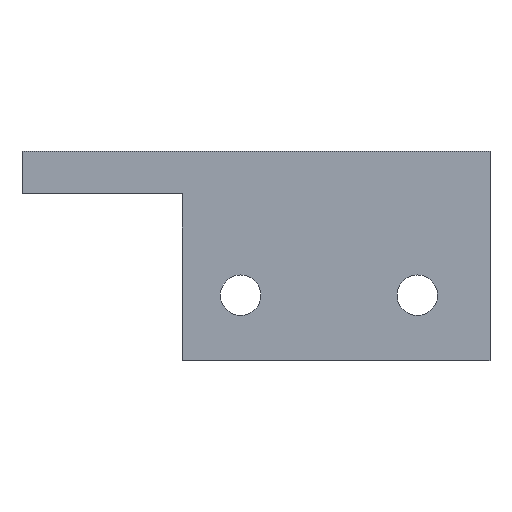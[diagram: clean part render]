
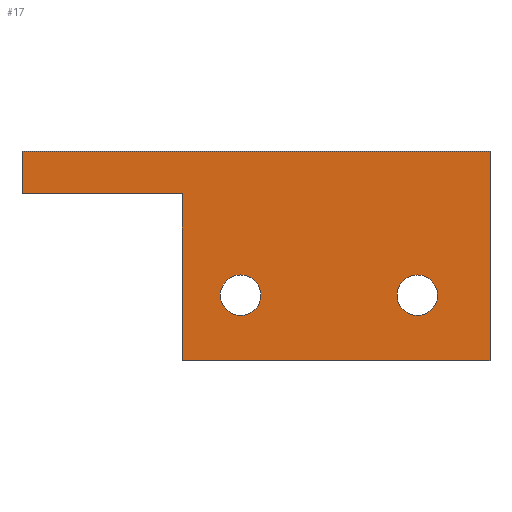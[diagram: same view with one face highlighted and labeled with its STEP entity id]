
A CAD part, left-side view. The second image highlights one B-rep face of the part: STEP entity #17.
In plain terms, the highlighted planar face has unit normal (-1, 0, 0).
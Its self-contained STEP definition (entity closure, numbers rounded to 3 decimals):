
#17 = ADVANCED_FACE('',(#18,#193,#228),#32,.F.);
#18 = FACE_BOUND('',#19,.F.);
#19 = EDGE_LOOP('',(#20,#55,#83,#111,#139,#167));
#20 = ORIENTED_EDGE('',*,*,#21,.F.);
#21 = EDGE_CURVE('',#22,#24,#26,.T.);
#22 = VERTEX_POINT('',#23);
#23 = CARTESIAN_POINT('',(-15.,-20.,-25.));
#24 = VERTEX_POINT('',#25);
#25 = CARTESIAN_POINT('',(-15.,51.5,-25.));
#26 = SURFACE_CURVE('',#27,(#31,#43),.PCURVE_S1.);
#27 = LINE('',#28,#29);
#28 = CARTESIAN_POINT('',(-15.,-20.,-25.));
#29 = VECTOR('',#30,1.);
#30 = DIRECTION('',(0.,1.,0.));
#31 = PCURVE('',#32,#37);
#32 = PLANE('',#33);
#33 = AXIS2_PLACEMENT_3D('',#34,#35,#36);
#34 = CARTESIAN_POINT('',(-15.,-20.,-57.));
#35 = DIRECTION('',(1.,0.,0.));
#36 = DIRECTION('',(0.,0.,1.));
#37 = DEFINITIONAL_REPRESENTATION('',(#38),#42);
#38 = LINE('',#39,#40);
#39 = CARTESIAN_POINT('',(32.,0.));
#40 = VECTOR('',#41,1.);
#41 = DIRECTION('',(0.,-1.));
#42 = ( GEOMETRIC_REPRESENTATION_CONTEXT(2) 
PARAMETRIC_REPRESENTATION_CONTEXT() REPRESENTATION_CONTEXT('2D SPACE',''
  ) );
#43 = PCURVE('',#44,#49);
#44 = PLANE('',#45);
#45 = AXIS2_PLACEMENT_3D('',#46,#47,#48);
#46 = CARTESIAN_POINT('',(-15.,-20.,-25.));
#47 = DIRECTION('',(0.,0.,1.));
#48 = DIRECTION('',(1.,0.,0.));
#49 = DEFINITIONAL_REPRESENTATION('',(#50),#54);
#50 = LINE('',#51,#52);
#51 = CARTESIAN_POINT('',(0.,0.));
#52 = VECTOR('',#53,1.);
#53 = DIRECTION('',(0.,1.));
#54 = ( GEOMETRIC_REPRESENTATION_CONTEXT(2) 
PARAMETRIC_REPRESENTATION_CONTEXT() REPRESENTATION_CONTEXT('2D SPACE',''
  ) );
#55 = ORIENTED_EDGE('',*,*,#56,.F.);
#56 = EDGE_CURVE('',#57,#22,#59,.T.);
#57 = VERTEX_POINT('',#58);
#58 = CARTESIAN_POINT('',(-15.,-20.,-57.));
#59 = SURFACE_CURVE('',#60,(#64,#71),.PCURVE_S1.);
#60 = LINE('',#61,#62);
#61 = CARTESIAN_POINT('',(-15.,-20.,-57.));
#62 = VECTOR('',#63,1.);
#63 = DIRECTION('',(0.,0.,1.));
#64 = PCURVE('',#32,#65);
#65 = DEFINITIONAL_REPRESENTATION('',(#66),#70);
#66 = LINE('',#67,#68);
#67 = CARTESIAN_POINT('',(0.,0.));
#68 = VECTOR('',#69,1.);
#69 = DIRECTION('',(1.,0.));
#70 = ( GEOMETRIC_REPRESENTATION_CONTEXT(2) 
PARAMETRIC_REPRESENTATION_CONTEXT() REPRESENTATION_CONTEXT('2D SPACE',''
  ) );
#71 = PCURVE('',#72,#77);
#72 = PLANE('',#73);
#73 = AXIS2_PLACEMENT_3D('',#74,#75,#76);
#74 = CARTESIAN_POINT('',(-15.,-20.,-57.));
#75 = DIRECTION('',(0.,1.,0.));
#76 = DIRECTION('',(0.,0.,1.));
#77 = DEFINITIONAL_REPRESENTATION('',(#78),#82);
#78 = LINE('',#79,#80);
#79 = CARTESIAN_POINT('',(0.,0.));
#80 = VECTOR('',#81,1.);
#81 = DIRECTION('',(1.,0.));
#82 = ( GEOMETRIC_REPRESENTATION_CONTEXT(2) 
PARAMETRIC_REPRESENTATION_CONTEXT() REPRESENTATION_CONTEXT('2D SPACE',''
  ) );
#83 = ORIENTED_EDGE('',*,*,#84,.T.);
#84 = EDGE_CURVE('',#57,#85,#87,.T.);
#85 = VERTEX_POINT('',#86);
#86 = CARTESIAN_POINT('',(-15.,27.,-57.));
#87 = SURFACE_CURVE('',#88,(#92,#99),.PCURVE_S1.);
#88 = LINE('',#89,#90);
#89 = CARTESIAN_POINT('',(-15.,-20.,-57.));
#90 = VECTOR('',#91,1.);
#91 = DIRECTION('',(0.,1.,0.));
#92 = PCURVE('',#32,#93);
#93 = DEFINITIONAL_REPRESENTATION('',(#94),#98);
#94 = LINE('',#95,#96);
#95 = CARTESIAN_POINT('',(0.,0.));
#96 = VECTOR('',#97,1.);
#97 = DIRECTION('',(0.,-1.));
#98 = ( GEOMETRIC_REPRESENTATION_CONTEXT(2) 
PARAMETRIC_REPRESENTATION_CONTEXT() REPRESENTATION_CONTEXT('2D SPACE',''
  ) );
#99 = PCURVE('',#100,#105);
#100 = PLANE('',#101);
#101 = AXIS2_PLACEMENT_3D('',#102,#103,#104);
#102 = CARTESIAN_POINT('',(-15.,-20.,-57.));
#103 = DIRECTION('',(0.,0.,1.));
#104 = DIRECTION('',(1.,0.,0.));
#105 = DEFINITIONAL_REPRESENTATION('',(#106),#110);
#106 = LINE('',#107,#108);
#107 = CARTESIAN_POINT('',(0.,0.));
#108 = VECTOR('',#109,1.);
#109 = DIRECTION('',(0.,1.));
#110 = ( GEOMETRIC_REPRESENTATION_CONTEXT(2) 
PARAMETRIC_REPRESENTATION_CONTEXT() REPRESENTATION_CONTEXT('2D SPACE',''
  ) );
#111 = ORIENTED_EDGE('',*,*,#112,.T.);
#112 = EDGE_CURVE('',#85,#113,#115,.T.);
#113 = VERTEX_POINT('',#114);
#114 = CARTESIAN_POINT('',(-15.,27.,-31.5));
#115 = SURFACE_CURVE('',#116,(#120,#127),.PCURVE_S1.);
#116 = LINE('',#117,#118);
#117 = CARTESIAN_POINT('',(-15.,27.,-57.));
#118 = VECTOR('',#119,1.);
#119 = DIRECTION('',(0.,0.,1.));
#120 = PCURVE('',#32,#121);
#121 = DEFINITIONAL_REPRESENTATION('',(#122),#126);
#122 = LINE('',#123,#124);
#123 = CARTESIAN_POINT('',(0.,-47.));
#124 = VECTOR('',#125,1.);
#125 = DIRECTION('',(1.,0.));
#126 = ( GEOMETRIC_REPRESENTATION_CONTEXT(2) 
PARAMETRIC_REPRESENTATION_CONTEXT() REPRESENTATION_CONTEXT('2D SPACE',''
  ) );
#127 = PCURVE('',#128,#133);
#128 = PLANE('',#129);
#129 = AXIS2_PLACEMENT_3D('',#130,#131,#132);
#130 = CARTESIAN_POINT('',(-15.,27.,-57.));
#131 = DIRECTION('',(0.,1.,0.));
#132 = DIRECTION('',(0.,0.,1.));
#133 = DEFINITIONAL_REPRESENTATION('',(#134),#138);
#134 = LINE('',#135,#136);
#135 = CARTESIAN_POINT('',(0.,0.));
#136 = VECTOR('',#137,1.);
#137 = DIRECTION('',(1.,0.));
#138 = ( GEOMETRIC_REPRESENTATION_CONTEXT(2) 
PARAMETRIC_REPRESENTATION_CONTEXT() REPRESENTATION_CONTEXT('2D SPACE',''
  ) );
#139 = ORIENTED_EDGE('',*,*,#140,.T.);
#140 = EDGE_CURVE('',#113,#141,#143,.T.);
#141 = VERTEX_POINT('',#142);
#142 = CARTESIAN_POINT('',(-15.,51.5,-31.5));
#143 = SURFACE_CURVE('',#144,(#148,#155),.PCURVE_S1.);
#144 = LINE('',#145,#146);
#145 = CARTESIAN_POINT('',(-15.,4.,-31.5));
#146 = VECTOR('',#147,1.);
#147 = DIRECTION('',(0.,1.,0.));
#148 = PCURVE('',#32,#149);
#149 = DEFINITIONAL_REPRESENTATION('',(#150),#154);
#150 = LINE('',#151,#152);
#151 = CARTESIAN_POINT('',(25.5,-24.));
#152 = VECTOR('',#153,1.);
#153 = DIRECTION('',(0.,-1.));
#154 = ( GEOMETRIC_REPRESENTATION_CONTEXT(2) 
PARAMETRIC_REPRESENTATION_CONTEXT() REPRESENTATION_CONTEXT('2D SPACE',''
  ) );
#155 = PCURVE('',#156,#161);
#156 = PLANE('',#157);
#157 = AXIS2_PLACEMENT_3D('',#158,#159,#160);
#158 = CARTESIAN_POINT('',(-15.,4.,-31.5));
#159 = DIRECTION('',(0.,0.,1.));
#160 = DIRECTION('',(1.,0.,0.));
#161 = DEFINITIONAL_REPRESENTATION('',(#162),#166);
#162 = LINE('',#163,#164);
#163 = CARTESIAN_POINT('',(0.,0.));
#164 = VECTOR('',#165,1.);
#165 = DIRECTION('',(0.,1.));
#166 = ( GEOMETRIC_REPRESENTATION_CONTEXT(2) 
PARAMETRIC_REPRESENTATION_CONTEXT() REPRESENTATION_CONTEXT('2D SPACE',''
  ) );
#167 = ORIENTED_EDGE('',*,*,#168,.T.);
#168 = EDGE_CURVE('',#141,#24,#169,.T.);
#169 = SURFACE_CURVE('',#170,(#174,#181),.PCURVE_S1.);
#170 = LINE('',#171,#172);
#171 = CARTESIAN_POINT('',(-15.,51.5,-31.5));
#172 = VECTOR('',#173,1.);
#173 = DIRECTION('',(0.,0.,1.));
#174 = PCURVE('',#32,#175);
#175 = DEFINITIONAL_REPRESENTATION('',(#176),#180);
#176 = LINE('',#177,#178);
#177 = CARTESIAN_POINT('',(25.5,-71.5));
#178 = VECTOR('',#179,1.);
#179 = DIRECTION('',(1.,0.));
#180 = ( GEOMETRIC_REPRESENTATION_CONTEXT(2) 
PARAMETRIC_REPRESENTATION_CONTEXT() REPRESENTATION_CONTEXT('2D SPACE',''
  ) );
#181 = PCURVE('',#182,#187);
#182 = PLANE('',#183);
#183 = AXIS2_PLACEMENT_3D('',#184,#185,#186);
#184 = CARTESIAN_POINT('',(-15.,51.5,-31.5));
#185 = DIRECTION('',(0.,1.,0.));
#186 = DIRECTION('',(0.,0.,1.));
#187 = DEFINITIONAL_REPRESENTATION('',(#188),#192);
#188 = LINE('',#189,#190);
#189 = CARTESIAN_POINT('',(0.,0.));
#190 = VECTOR('',#191,1.);
#191 = DIRECTION('',(1.,0.));
#192 = ( GEOMETRIC_REPRESENTATION_CONTEXT(2) 
PARAMETRIC_REPRESENTATION_CONTEXT() REPRESENTATION_CONTEXT('2D SPACE',''
  ) );
#193 = FACE_BOUND('',#194,.F.);
#194 = EDGE_LOOP('',(#195));
#195 = ORIENTED_EDGE('',*,*,#196,.T.);
#196 = EDGE_CURVE('',#197,#197,#199,.T.);
#197 = VERTEX_POINT('',#198);
#198 = CARTESIAN_POINT('',(-15.,15.,-47.));
#199 = SURFACE_CURVE('',#200,(#205,#216),.PCURVE_S1.);
#200 = CIRCLE('',#201,3.1);
#201 = AXIS2_PLACEMENT_3D('',#202,#203,#204);
#202 = CARTESIAN_POINT('',(-15.,18.1,-47.));
#203 = DIRECTION('',(-1.,-0.,0.));
#204 = DIRECTION('',(0.,-1.,0.));
#205 = PCURVE('',#32,#206);
#206 = DEFINITIONAL_REPRESENTATION('',(#207),#215);
#207 = ( BOUNDED_CURVE() B_SPLINE_CURVE(2,(#208,#209,#210,#211,#212,#213
,#214),.UNSPECIFIED.,.T.,.F.) B_SPLINE_CURVE_WITH_KNOTS((1,2,2,2,2,1),(
    -2.094,0.,2.094,4.189,6.283,
8.378),.UNSPECIFIED.) CURVE() GEOMETRIC_REPRESENTATION_ITEM() 
RATIONAL_B_SPLINE_CURVE((1.,0.5,1.,0.5,1.,0.5,1.)) REPRESENTATION_ITEM(
  '') );
#208 = CARTESIAN_POINT('',(10.,-35.));
#209 = CARTESIAN_POINT('',(15.369,-35.));
#210 = CARTESIAN_POINT('',(12.685,-39.65));
#211 = CARTESIAN_POINT('',(10.,-44.3));
#212 = CARTESIAN_POINT('',(7.315,-39.65));
#213 = CARTESIAN_POINT('',(4.631,-35.));
#214 = CARTESIAN_POINT('',(10.,-35.));
#215 = ( GEOMETRIC_REPRESENTATION_CONTEXT(2) 
PARAMETRIC_REPRESENTATION_CONTEXT() REPRESENTATION_CONTEXT('2D SPACE',''
  ) );
#216 = PCURVE('',#217,#222);
#217 = CYLINDRICAL_SURFACE('',#218,3.1);
#218 = AXIS2_PLACEMENT_3D('',#219,#220,#221);
#219 = CARTESIAN_POINT('',(-16.,18.1,-47.));
#220 = DIRECTION('',(-1.,-0.,-0.));
#221 = DIRECTION('',(0.,-1.,0.));
#222 = DEFINITIONAL_REPRESENTATION('',(#223),#227);
#223 = LINE('',#224,#225);
#224 = CARTESIAN_POINT('',(-6.283,-1.));
#225 = VECTOR('',#226,1.);
#226 = DIRECTION('',(1.,-0.));
#227 = ( GEOMETRIC_REPRESENTATION_CONTEXT(2) 
PARAMETRIC_REPRESENTATION_CONTEXT() REPRESENTATION_CONTEXT('2D SPACE',''
  ) );
#228 = FACE_BOUND('',#229,.F.);
#229 = EDGE_LOOP('',(#230));
#230 = ORIENTED_EDGE('',*,*,#231,.T.);
#231 = EDGE_CURVE('',#232,#232,#234,.T.);
#232 = VERTEX_POINT('',#233);
#233 = CARTESIAN_POINT('',(-15.,-12.,-47.));
#234 = SURFACE_CURVE('',#235,(#240,#251),.PCURVE_S1.);
#235 = CIRCLE('',#236,3.1);
#236 = AXIS2_PLACEMENT_3D('',#237,#238,#239);
#237 = CARTESIAN_POINT('',(-15.,-8.9,-47.));
#238 = DIRECTION('',(-1.,-0.,0.));
#239 = DIRECTION('',(0.,-1.,0.));
#240 = PCURVE('',#32,#241);
#241 = DEFINITIONAL_REPRESENTATION('',(#242),#250);
#242 = ( BOUNDED_CURVE() B_SPLINE_CURVE(2,(#243,#244,#245,#246,#247,#248
,#249),.UNSPECIFIED.,.T.,.F.) B_SPLINE_CURVE_WITH_KNOTS((1,2,2,2,2,1),(
    -2.094,0.,2.094,4.189,6.283,
8.378),.UNSPECIFIED.) CURVE() GEOMETRIC_REPRESENTATION_ITEM() 
RATIONAL_B_SPLINE_CURVE((1.,0.5,1.,0.5,1.,0.5,1.)) REPRESENTATION_ITEM(
  '') );
#243 = CARTESIAN_POINT('',(10.,-8.));
#244 = CARTESIAN_POINT('',(15.369,-8.));
#245 = CARTESIAN_POINT('',(12.685,-12.65));
#246 = CARTESIAN_POINT('',(10.,-17.3));
#247 = CARTESIAN_POINT('',(7.315,-12.65));
#248 = CARTESIAN_POINT('',(4.631,-8.));
#249 = CARTESIAN_POINT('',(10.,-8.));
#250 = ( GEOMETRIC_REPRESENTATION_CONTEXT(2) 
PARAMETRIC_REPRESENTATION_CONTEXT() REPRESENTATION_CONTEXT('2D SPACE',''
  ) );
#251 = PCURVE('',#252,#257);
#252 = CYLINDRICAL_SURFACE('',#253,3.1);
#253 = AXIS2_PLACEMENT_3D('',#254,#255,#256);
#254 = CARTESIAN_POINT('',(-16.,-8.9,-47.));
#255 = DIRECTION('',(-1.,-0.,-0.));
#256 = DIRECTION('',(0.,-1.,0.));
#257 = DEFINITIONAL_REPRESENTATION('',(#258),#262);
#258 = LINE('',#259,#260);
#259 = CARTESIAN_POINT('',(-6.283,-1.));
#260 = VECTOR('',#261,1.);
#261 = DIRECTION('',(1.,-0.));
#262 = ( GEOMETRIC_REPRESENTATION_CONTEXT(2) 
PARAMETRIC_REPRESENTATION_CONTEXT() REPRESENTATION_CONTEXT('2D SPACE',''
  ) );
